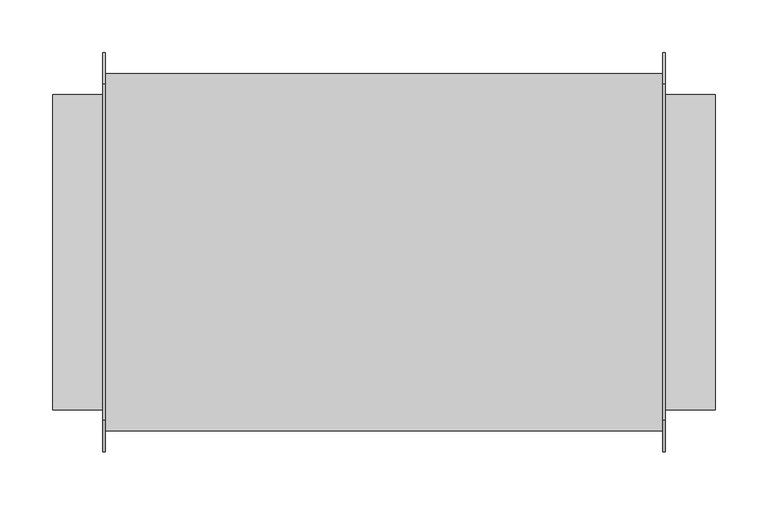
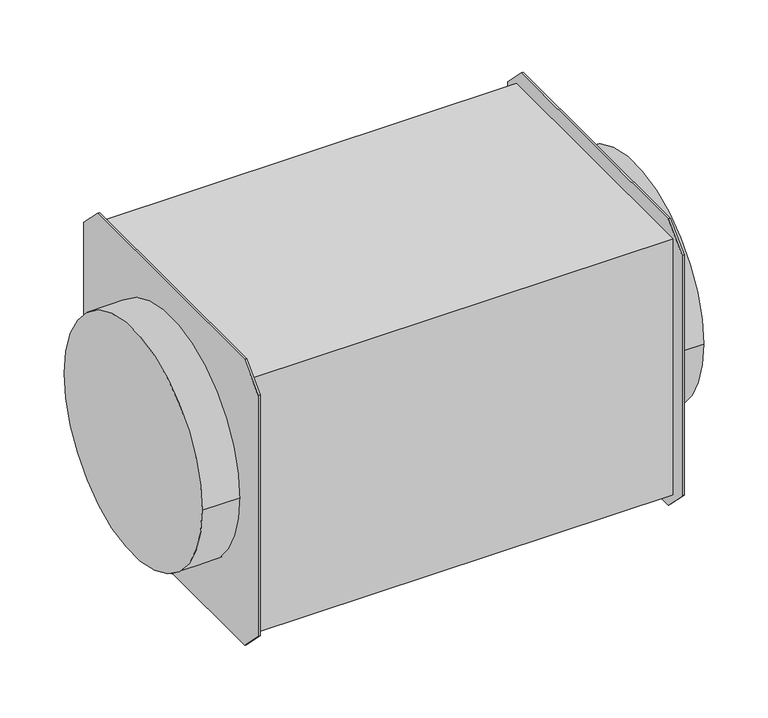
"""IFC4 building model written with IfcOpenShell, lengths in millimetres: unitary equipment geometry, 140_VAV_変風量ユニット_丸ダクト用 : 変風量ユニット_丸ダクト用."""

from ifc_helpers import new_model, si_unit, point, frame, origin, origin_2d, place, context, project, spatial, polyline, circle_curve, trimmed, segment, composite_curve, outline, extrude, source, transform, mapped, element, save


def unitary_equipment_af39b7f1(model_context):
    return source(origin(), model_context, "Body", "SweptSolid", [
        extrude(outline(polyline([(160.0, -190.0), (-160.0, -190.0), (-190.0, -160.0), (-190.0, 160.0), (-160.0, 190.0), (160.0, 190.0), (190.0, 160.0), (190.0, -160.0), (160.0, -190.0)])), frame((265.0, 0.0, 0.0), z_axis=(1.0, 0.0, 0.0), x_axis=(0.0, 1.0, 0.0)), (0.0, 0.0, 1.0), 2.5),
        extrude(outline(polyline([(160.0, -190.0), (-160.0, -190.0), (-190.0, -160.0), (-190.0, 160.0), (-160.0, 190.0), (160.0, 190.0), (190.0, 160.0), (190.0, -160.0), (160.0, -190.0)])), frame((-267.5, 0.0, 0.0), z_axis=(1.0, 0.0, 0.0), x_axis=(0.0, 1.0, 0.0)), (0.0, 0.0, 1.0), 2.5),
        extrude(outline(composite_curve([segment(trimmed(circle_curve(origin_2d(), 150.0), [point((150.0, 0.0))], [point((-150.0, 0.0))], False, "CARTESIAN"), True, "CONTINUOUS"), segment(trimmed(circle_curve(origin_2d(), 150.0), [point((-150.0, 0.0))], [point((150.0, 0.0))], False, "CARTESIAN"), True, "CONTINUOUS")], self_intersect=False)), frame((265.0, 0.0, 0.0), z_axis=(1.0, 0.0, 0.0), x_axis=(0.0, 1.0, 0.0)), (0.0, 0.0, 1.0), 50.0),
        extrude(outline(composite_curve([segment(trimmed(circle_curve(origin_2d(), 150.0), [point((150.0, 0.0))], [point((-150.0, 0.0))], False, "CARTESIAN"), True, "CONTINUOUS"), segment(trimmed(circle_curve(origin_2d(), 150.0), [point((-150.0, 0.0))], [point((150.0, 0.0))], False, "CARTESIAN"), True, "CONTINUOUS")], self_intersect=False)), frame((-315.0, 0.0, 0.0), z_axis=(1.0, 0.0, 0.0), x_axis=(0.0, 1.0, 0.0)), (0.0, 0.0, 1.0), 50.0),
        extrude(outline(polyline([(265.0, -170.0), (-265.0, -170.0), (-265.0, 170.0), (265.0, 170.0), (265.0, -170.0)])), frame((0.0, 0.0, -170.0), z_axis=(0.0, 0.0, 1.0), x_axis=(1.0, 0.0, 0.0)), (0.0, 0.0, 1.0), 340.0),
    ])


if __name__ == "__main__":
    model = new_model("IFC4")
    model_context = context("Model", 3, world=origin())
    ifc_project = project(units=[si_unit("LENGTHUNIT", "METRE", prefix="MILLI")], contexts=[model_context])
    site = spatial("IfcSite", under=ifc_project)
    building = spatial("IfcBuilding", under=site)
    placement = place(None, origin())
    unitary_equipment_shape = unitary_equipment_af39b7f1(model_context)
    element("IfcUnitaryEquipment", 1, ObjectType="140_VAV_変風量ユニット_丸ダクト用 : 変風量ユニット_丸ダクト用", at=placement, inside=building, context=model_context, shape_type="MappedRepresentation", body=[
        mapped(unitary_equipment_shape, transform((0.0, 0.0, 0.0), x_axis=(1.0, 0.0, 0.0), y_axis=(0.0, 1.0, 0.0), z_axis=(0.0, 0.0, 1.0))),
    ])
    save(model, "model.ifc")
